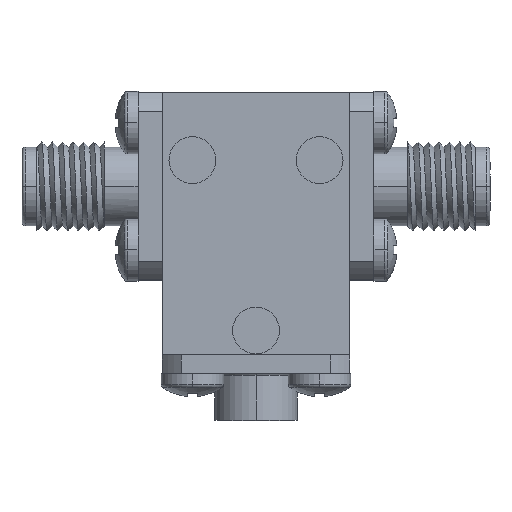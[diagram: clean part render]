
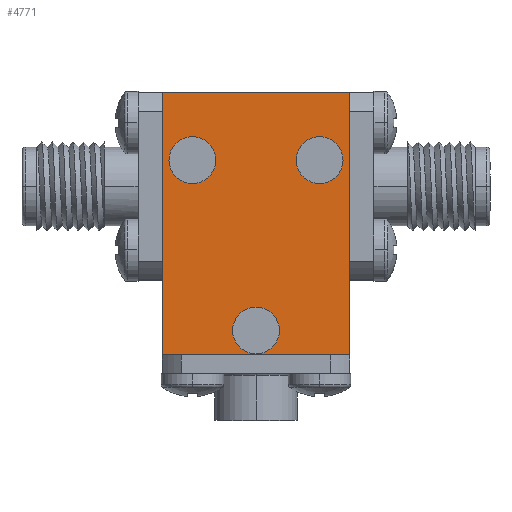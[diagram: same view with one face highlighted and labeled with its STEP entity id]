
A CAD part, top view. The second image highlights one B-rep face of the part: STEP entity #4771.
In plain terms, the highlighted planar face has unit normal (0, 0, 1).
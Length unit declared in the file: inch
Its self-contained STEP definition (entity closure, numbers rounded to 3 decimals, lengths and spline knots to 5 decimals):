
#71 = CIRCLE ( 'NONE', #4513, 0.0625 ) ;
#91 = AXIS2_PLACEMENT_3D ( 'NONE', #4435, #2149, #2957 ) ;
#96 = DIRECTION ( 'NONE',  ( 1., 0., 0. ) ) ;
#151 = EDGE_CURVE ( 'NONE', #1605, #1268, #475, .T. ) ;
#227 = ORIENTED_EDGE ( 'NONE', *, *, #869, .F. ) ;
#248 = EDGE_CURVE ( 'NONE', #2680, #444, #1868, .T. ) ;
#279 = DIRECTION ( 'NONE',  ( 1., 0., 0. ) ) ;
#444 = VERTEX_POINT ( 'NONE', #2883 ) ;
#475 = CIRCLE ( 'NONE', #3585, 0.0625 ) ;
#525 = DIRECTION ( 'NONE',  ( 1., 0., 0. ) ) ;
#587 = EDGE_CURVE ( 'NONE', #622, #4174, #71, .T. ) ;
#622 = VERTEX_POINT ( 'NONE', #1035 ) ;
#631 = LINE ( 'NONE', #4670, #3813 ) ;
#644 = CARTESIAN_POINT ( 'NONE',  ( 0.25, 0.35, 0.25 ) ) ;
#726 = EDGE_CURVE ( 'NONE', #1268, #1605, #4593, .T. ) ;
#746 = CARTESIAN_POINT ( 'NONE',  ( 0.1075, 0.17, 0.25 ) ) ;
#799 = CARTESIAN_POINT ( 'NONE',  ( 0.2325, 0.17, 0.25 ) ) ;
#869 = EDGE_CURVE ( 'NONE', #1119, #3800, #1919, .T. ) ;
#870 = VECTOR ( 'NONE', #1915, 39.37008 ) ;
#930 = CARTESIAN_POINT ( 'NONE',  ( -0.0625, -0.285, 0.25 ) ) ;
#1035 = CARTESIAN_POINT ( 'NONE',  ( 0.0625, -0.285, 0.25 ) ) ;
#1117 = ORIENTED_EDGE ( 'NONE', *, *, #151, .F. ) ;
#1119 = VERTEX_POINT ( 'NONE', #746 ) ;
#1268 = VERTEX_POINT ( 'NONE', #1872 ) ;
#1374 = DIRECTION ( 'NONE',  ( 0., 0., 1. ) ) ;
#1383 = AXIS2_PLACEMENT_3D ( 'NONE', #3591, #1977, #525 ) ;
#1384 = EDGE_LOOP ( 'NONE', ( #2547, #227 ) ) ;
#1430 = ORIENTED_EDGE ( 'NONE', *, *, #726, .F. ) ;
#1472 = FACE_BOUND ( 'NONE', #4674, .T. ) ;
#1542 = ORIENTED_EDGE ( 'NONE', *, *, #4002, .T. ) ;
#1605 = VERTEX_POINT ( 'NONE', #4832 ) ;
#1655 = CARTESIAN_POINT ( 'NONE',  ( -0.25, 0.35, 0.25 ) ) ;
#1710 = AXIS2_PLACEMENT_3D ( 'NONE', #3398, #2621, #2208 ) ;
#1761 = ORIENTED_EDGE ( 'NONE', *, *, #2350, .T. ) ;
#1868 = LINE ( 'NONE', #1655, #3608 ) ;
#1872 = CARTESIAN_POINT ( 'NONE',  ( -0.2325, 0.17, 0.25 ) ) ;
#1882 = CARTESIAN_POINT ( 'NONE',  ( -0.25, 0.35, 0.25 ) ) ;
#1915 = DIRECTION ( 'NONE',  ( 1., 0., 0. ) ) ;
#1919 = CIRCLE ( 'NONE', #1383, 0.0625 ) ;
#1927 = DIRECTION ( 'NONE',  ( 1., 0., 0. ) ) ;
#1944 = FACE_OUTER_BOUND ( 'NONE', #2914, .T. ) ;
#1955 = VERTEX_POINT ( 'NONE', #3232 ) ;
#1975 = DIRECTION ( 'NONE',  ( -1., 0., 0. ) ) ;
#1977 = DIRECTION ( 'NONE',  ( 0., 0., 1. ) ) ;
#2120 = AXIS2_PLACEMENT_3D ( 'NONE', #4165, #2679, #1927 ) ;
#2149 = DIRECTION ( 'NONE',  ( 0., 0., 1. ) ) ;
#2162 = CARTESIAN_POINT ( 'NONE',  ( 0., -0.285, 0.25 ) ) ;
#2208 = DIRECTION ( 'NONE',  ( 1., 0., 0. ) ) ;
#2276 = ORIENTED_EDGE ( 'NONE', *, *, #2813, .F. ) ;
#2277 = CARTESIAN_POINT ( 'NONE',  ( -0.17, 0.17, 0.25 ) ) ;
#2326 = CARTESIAN_POINT ( 'NONE',  ( -0.25, -0.35, 0.25 ) ) ;
#2350 = EDGE_CURVE ( 'NONE', #4545, #1955, #4464, .T. ) ;
#2421 = ORIENTED_EDGE ( 'NONE', *, *, #587, .F. ) ;
#2505 = CIRCLE ( 'NONE', #2524, 0.0625 ) ;
#2517 = EDGE_CURVE ( 'NONE', #1955, #2680, #631, .T. ) ;
#2524 = AXIS2_PLACEMENT_3D ( 'NONE', #4413, #1374, #4005 ) ;
#2547 = ORIENTED_EDGE ( 'NONE', *, *, #4448, .F. ) ;
#2575 = DIRECTION ( 'NONE',  ( 0., -1., 0. ) ) ;
#2621 = DIRECTION ( 'NONE',  ( 0., 0., 1. ) ) ;
#2679 = DIRECTION ( 'NONE',  ( 0., 0., 1. ) ) ;
#2680 = VERTEX_POINT ( 'NONE', #644 ) ;
#2813 = EDGE_CURVE ( 'NONE', #4174, #622, #2505, .T. ) ;
#2883 = CARTESIAN_POINT ( 'NONE',  ( -0.25, 0.35, 0.25 ) ) ;
#2914 = EDGE_LOOP ( 'NONE', ( #4086, #3566, #1542, #1761 ) ) ;
#2957 = DIRECTION ( 'NONE',  ( 1., 0., 0. ) ) ;
#2977 = PLANE ( 'NONE',  #1710 ) ;
#2978 = CARTESIAN_POINT ( 'NONE',  ( -0.25, -0.35, 0.25 ) ) ;
#3232 = CARTESIAN_POINT ( 'NONE',  ( 0.25, -0.35, 0.25 ) ) ;
#3398 = CARTESIAN_POINT ( 'NONE',  ( 0., 0., 0.25 ) ) ;
#3501 = FACE_BOUND ( 'NONE', #3961, .T. ) ;
#3566 = ORIENTED_EDGE ( 'NONE', *, *, #248, .T. ) ;
#3585 = AXIS2_PLACEMENT_3D ( 'NONE', #2277, #4182, #96 ) ;
#3591 = CARTESIAN_POINT ( 'NONE',  ( 0.17, 0.17, 0.25 ) ) ;
#3608 = VECTOR ( 'NONE', #1975, 39.37008 ) ;
#3625 = FACE_BOUND ( 'NONE', #1384, .T. ) ;
#3627 = CIRCLE ( 'NONE', #91, 0.0625 ) ;
#3800 = VERTEX_POINT ( 'NONE', #799 ) ;
#3813 = VECTOR ( 'NONE', #4293, 39.37008 ) ;
#3961 = EDGE_LOOP ( 'NONE', ( #1117, #1430 ) ) ;
#4002 = EDGE_CURVE ( 'NONE', #444, #4545, #4259, .T. ) ;
#4005 = DIRECTION ( 'NONE',  ( 1., 0., 0. ) ) ;
#4086 = ORIENTED_EDGE ( 'NONE', *, *, #2517, .T. ) ;
#4165 = CARTESIAN_POINT ( 'NONE',  ( -0.17, 0.17, 0.25 ) ) ;
#4174 = VERTEX_POINT ( 'NONE', #930 ) ;
#4182 = DIRECTION ( 'NONE',  ( 0., 0., 1. ) ) ;
#4193 = VECTOR ( 'NONE', #2575, 39.37008 ) ;
#4259 = LINE ( 'NONE', #1882, #4193 ) ;
#4293 = DIRECTION ( 'NONE',  ( 0., 1., 0. ) ) ;
#4413 = CARTESIAN_POINT ( 'NONE',  ( 0., -0.285, 0.25 ) ) ;
#4435 = CARTESIAN_POINT ( 'NONE',  ( 0.17, 0.17, 0.25 ) ) ;
#4448 = EDGE_CURVE ( 'NONE', #3800, #1119, #3627, .T. ) ;
#4450 = DIRECTION ( 'NONE',  ( 0., 0., 1. ) ) ;
#4464 = LINE ( 'NONE', #2326, #870 ) ;
#4513 = AXIS2_PLACEMENT_3D ( 'NONE', #2162, #4450, #279 ) ;
#4545 = VERTEX_POINT ( 'NONE', #2978 ) ;
#4593 = CIRCLE ( 'NONE', #2120, 0.0625 ) ;
#4670 = CARTESIAN_POINT ( 'NONE',  ( 0.25, 0.35, 0.25 ) ) ;
#4674 = EDGE_LOOP ( 'NONE', ( #2421, #2276 ) ) ;
#4771 = ADVANCED_FACE ( 'NONE', ( #3625, #1472, #3501, #1944 ), #2977, .T. ) ;
#4832 = CARTESIAN_POINT ( 'NONE',  ( -0.1075, 0.17, 0.25 ) ) ;
